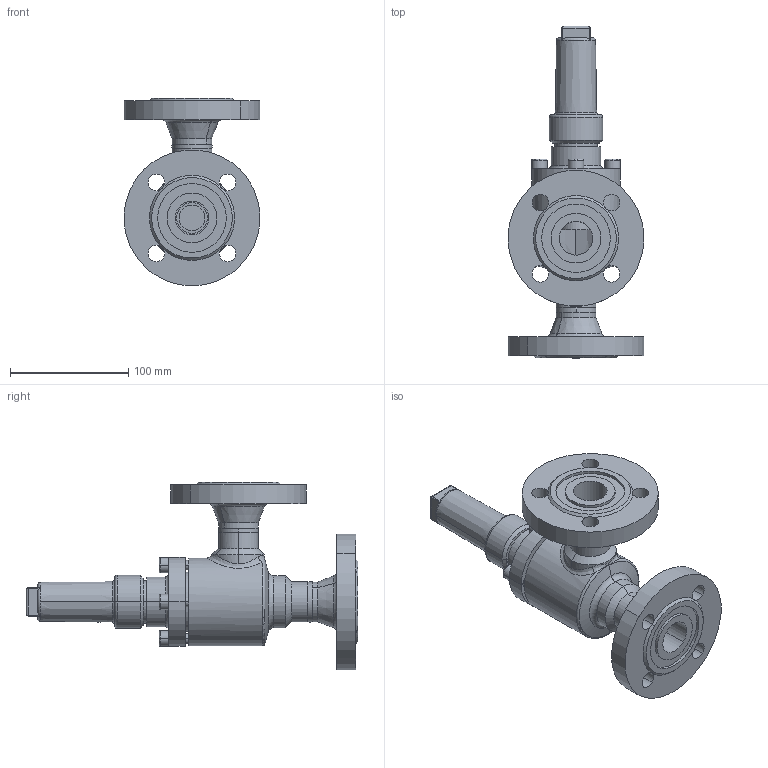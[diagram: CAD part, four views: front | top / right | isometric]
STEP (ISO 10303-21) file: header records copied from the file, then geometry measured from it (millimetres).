
FILE_DESCRIPTION (( 'STEP AP214' ), '1' );
FILE_NAME ('AVR26420D12-DN025_DIN-FL-N_PS40.STEP', '2006-04-27T13:47:59', ( 'Herr Grams' ), ( 'AWP GmbH' ), 'SwSTEP 2.0', 'SolidWorks 2002296', '' );
FILE_SCHEMA (( 'AUTOMOTIVE_DESIGN' ));
Length unit declared in the file: millimetre
Products named in the file (10): AVR26420D12-DN025_DIN-FL-N_PS40; AVR26300E13_Deck+Schr-DN25-32_Standard; Zylinderschraube-DIN912_M 8x 25; Deckel26300E13-DN25-32_Standard; Gehäuse-kpl16420-DN025_DIN_PS40_Standard; Gehäuse16400-DN025_Standard; bead16420-Geh-025-2_Standard; bead16420-Geh-025-1_Standard; Flansch-DIN2635-Nut_PS40_DIN-Flansch-DN025_PS40-Nut; Kappe16402_DN010-32_Standard
Assembly tree (13 placements, depth 3):
  AVR26420D12-DN025_DIN-FL-N_PS40
    Gehäuse-kpl16420-DN025_DIN_PS40_Standard
      Flansch-DIN2635-Nut_PS40_DIN-Flansch-DN025_PS40-Nut  x2
      bead16420-Geh-025-2_Standard
      Gehäuse16400-DN025_Standard
      bead16420-Geh-025-1_Standard
    Kappe16402_DN010-32_Standard
    AVR26300E13_Deck+Schr-DN25-32_Standard
      Zylinderschraube-DIN912_M 8x 25  x4
      Deckel26300E13-DN25-32_Standard
Bounding box: 114.56 x 280.5 x 158.28 mm (x, y, z)
Volume: 699965.4 mm3; surface area: 160255.9 mm2
Topology: 11 solids, 11 shells, 292 faces, 669 edges, 418 vertices
Faces by surface type: cylinder 119, plane 84, cone 51, torus 27, bspline 11
Entity records: 18591 total; most frequent: CARTESIAN_POINT 13137, DIRECTION 1049, ORIENTED_EDGE 946, EDGE_CURVE 473, AXIS2_PLACEMENT_3D 446, VERTEX_POINT 294, EDGE_LOOP 245, CIRCLE 233
